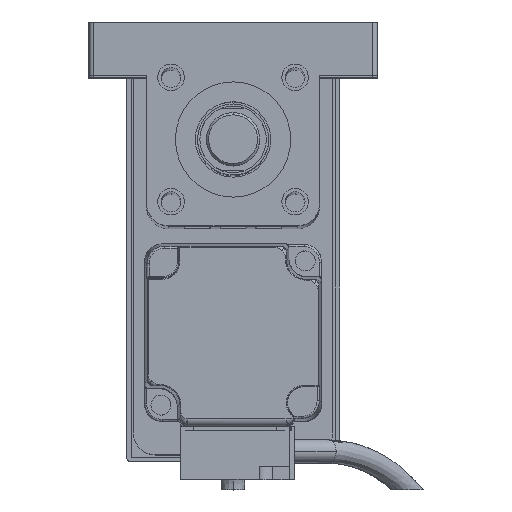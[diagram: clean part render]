
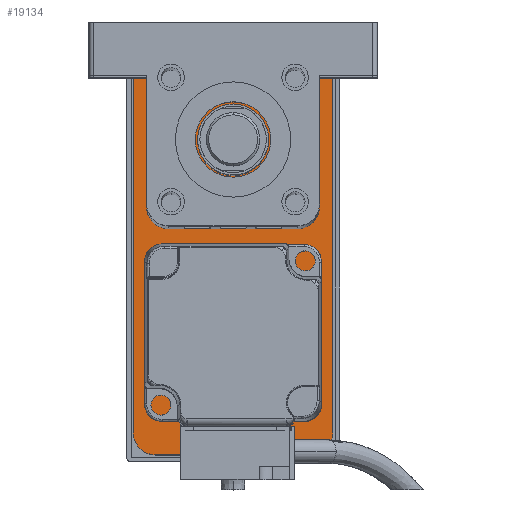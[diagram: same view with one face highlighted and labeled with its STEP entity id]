
A CAD part, top view. The second image highlights one B-rep face of the part: STEP entity #19134.
In plain terms, the highlighted planar face has unit normal (0, 0, 1).
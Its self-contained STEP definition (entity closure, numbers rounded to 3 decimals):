
#17 = CARTESIAN_POINT ( 'NONE',  ( 22.5, -40., 10. ) ) ;
#640 = LINE ( 'NONE', #3964, #21974 ) ;
#917 = CARTESIAN_POINT ( 'NONE',  ( 0., 0., 10. ) ) ;
#1012 = ORIENTED_EDGE ( 'NONE', *, *, #14146, .T. ) ;
#1067 = EDGE_CURVE ( 'NONE', #6944, #16369, #15634, .T. ) ;
#1554 = CARTESIAN_POINT ( 'NONE',  ( -22.5, 40., 10. ) ) ;
#1641 = VERTEX_POINT ( 'NONE', #18136 ) ;
#2229 = DIRECTION ( 'NONE',  ( 1., 0., 0. ) ) ;
#2578 = CARTESIAN_POINT ( 'NONE',  ( 22.5, 45., 10. ) ) ;
#3738 = EDGE_CURVE ( 'NONE', #25389, #9654, #23924, .T. ) ;
#3964 = CARTESIAN_POINT ( 'NONE',  ( 22.5, -45., 10. ) ) ;
#4394 = ORIENTED_EDGE ( 'NONE', *, *, #11802, .T. ) ;
#4555 = DIRECTION ( 'NONE',  ( 0., 0., 1. ) ) ;
#4591 = CARTESIAN_POINT ( 'NONE',  ( 22.5, 40., 10. ) ) ;
#4592 = FACE_OUTER_BOUND ( 'NONE', #6048, .T. ) ;
#4911 = CARTESIAN_POINT ( 'NONE',  ( -22.5, -45., 10. ) ) ;
#5057 = ORIENTED_EDGE ( 'NONE', *, *, #1067, .T. ) ;
#5182 = ORIENTED_EDGE ( 'NONE', *, *, #3738, .T. ) ;
#5566 = ORIENTED_EDGE ( 'NONE', *, *, #25581, .T. ) ;
#5680 = ORIENTED_EDGE ( 'NONE', *, *, #19015, .T. ) ;
#5937 = CARTESIAN_POINT ( 'NONE',  ( -17.5, 40., 10. ) ) ;
#6048 = EDGE_LOOP ( 'NONE', ( #5057, #5566, #12426, #5680, #5182, #4394, #17601, #1012 ) ) ;
#6944 = VERTEX_POINT ( 'NONE', #17 ) ;
#7050 = EDGE_CURVE ( 'NONE', #9888, #17808, #9603, .T. ) ;
#7162 = DIRECTION ( 'NONE',  ( 0., -1., 0. ) ) ;
#7235 = AXIS2_PLACEMENT_3D ( 'NONE', #15475, #15628, #23377 ) ;
#7932 = CARTESIAN_POINT ( 'NONE',  ( -17.5, -40., 10. ) ) ;
#8357 = DIRECTION ( 'NONE',  ( -1., 0., 0. ) ) ;
#8402 = CIRCLE ( 'NONE', #10396, 5. ) ;
#8542 = CARTESIAN_POINT ( 'NONE',  ( -17.5, 45., 10. ) ) ;
#8795 = CARTESIAN_POINT ( 'NONE',  ( -22.5, -40., 10. ) ) ;
#9603 = LINE ( 'NONE', #2578, #20696 ) ;
#9654 = VERTEX_POINT ( 'NONE', #8795 ) ;
#9888 = VERTEX_POINT ( 'NONE', #15556 ) ;
#10396 = AXIS2_PLACEMENT_3D ( 'NONE', #14381, #4555, #22342 ) ;
#11631 = VECTOR ( 'NONE', #24449, 1000. ) ;
#11802 = EDGE_CURVE ( 'NONE', #9654, #1641, #23073, .T. ) ;
#12120 = DIRECTION ( 'NONE',  ( 0., 0., 1. ) ) ;
#12253 = CARTESIAN_POINT ( 'NONE',  ( 17.5, -45., 10. ) ) ;
#12426 = ORIENTED_EDGE ( 'NONE', *, *, #7050, .T. ) ;
#12817 = PLANE ( 'NONE',  #16329 ) ;
#12913 = CIRCLE ( 'NONE', #21473, 5. ) ;
#14146 = EDGE_CURVE ( 'NONE', #16426, #6944, #18582, .T. ) ;
#14381 = CARTESIAN_POINT ( 'NONE',  ( 17.5, 40., 10. ) ) ;
#15475 = CARTESIAN_POINT ( 'NONE',  ( 17.5, -40., 10. ) ) ;
#15556 = CARTESIAN_POINT ( 'NONE',  ( 17.5, 45., 10. ) ) ;
#15628 = DIRECTION ( 'NONE',  ( 0., 0., 1. ) ) ;
#15634 = LINE ( 'NONE', #20319, #11631 ) ;
#16329 = AXIS2_PLACEMENT_3D ( 'NONE', #917, #22144, #18732 ) ;
#16369 = VERTEX_POINT ( 'NONE', #4591 ) ;
#16426 = VERTEX_POINT ( 'NONE', #12253 ) ;
#17601 = ORIENTED_EDGE ( 'NONE', *, *, #25562, .T. ) ;
#17808 = VERTEX_POINT ( 'NONE', #8542 ) ;
#17973 = DIRECTION ( 'NONE',  ( 1., 0., 0. ) ) ;
#18136 = CARTESIAN_POINT ( 'NONE',  ( -17.5, -45., 10. ) ) ;
#18582 = CIRCLE ( 'NONE', #7235, 5. ) ;
#18590 = VECTOR ( 'NONE', #7162, 1000. ) ;
#18732 = DIRECTION ( 'NONE',  ( 1., 0., 0. ) ) ;
#19015 = EDGE_CURVE ( 'NONE', #17808, #25389, #12913, .T. ) ;
#19134 = ADVANCED_FACE ( 'NONE', ( #4592 ), #12817, .T. ) ;
#20319 = CARTESIAN_POINT ( 'NONE',  ( 22.5, -45., 10. ) ) ;
#20696 = VECTOR ( 'NONE', #8357, 1000. ) ;
#21473 = AXIS2_PLACEMENT_3D ( 'NONE', #5937, #12120, #21713 ) ;
#21713 = DIRECTION ( 'NONE',  ( 1., 0., 0. ) ) ;
#21974 = VECTOR ( 'NONE', #2229, 1000. ) ;
#22062 = AXIS2_PLACEMENT_3D ( 'NONE', #7932, #23923, #17973 ) ;
#22144 = DIRECTION ( 'NONE',  ( 0., 0., 1. ) ) ;
#22342 = DIRECTION ( 'NONE',  ( 1., 0., 0. ) ) ;
#23073 = CIRCLE ( 'NONE', #22062, 5. ) ;
#23377 = DIRECTION ( 'NONE',  ( 1., 0., 0. ) ) ;
#23923 = DIRECTION ( 'NONE',  ( 0., 0., 1. ) ) ;
#23924 = LINE ( 'NONE', #4911, #18590 ) ;
#24449 = DIRECTION ( 'NONE',  ( 0., 1., 0. ) ) ;
#25389 = VERTEX_POINT ( 'NONE', #1554 ) ;
#25562 = EDGE_CURVE ( 'NONE', #1641, #16426, #640, .T. ) ;
#25581 = EDGE_CURVE ( 'NONE', #16369, #9888, #8402, .T. ) ;
